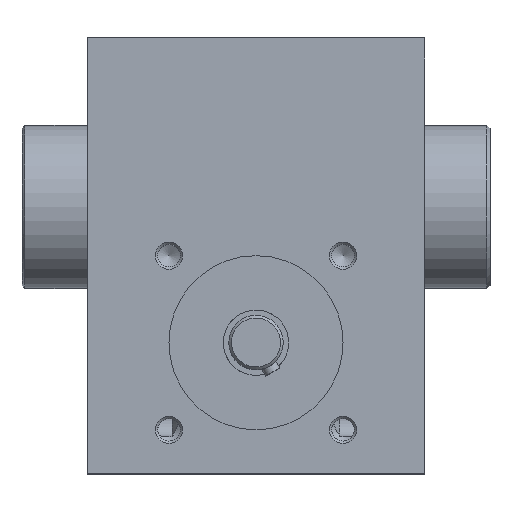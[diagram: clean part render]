
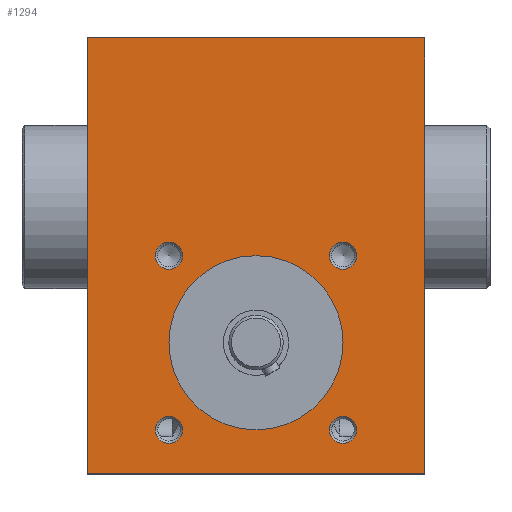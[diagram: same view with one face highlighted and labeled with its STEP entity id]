
A CAD part, top view. The second image highlights one B-rep face of the part: STEP entity #1294.
In plain terms, the highlighted planar face has unit normal (0, 0, 1).
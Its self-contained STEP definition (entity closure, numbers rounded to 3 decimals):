
#159=FACE_BOUND('',#442,.T.);
#160=FACE_BOUND('',#443,.T.);
#161=FACE_BOUND('',#444,.T.);
#162=FACE_BOUND('',#445,.T.);
#163=FACE_BOUND('',#446,.T.);
#219=LINE('',#2023,#259);
#223=LINE('',#2041,#263);
#227=LINE('',#2103,#267);
#228=LINE('',#2104,#268);
#259=VECTOR('',#1605,80.);
#263=VECTOR('',#1621,62.);
#267=VECTOR('',#1689,80.);
#268=VECTOR('',#1690,62.);
#316=FACE_OUTER_BOUND('',#441,.T.);
#441=EDGE_LOOP('',(#995,#996,#997,#998));
#442=EDGE_LOOP('',(#999));
#443=EDGE_LOOP('',(#1000));
#444=EDGE_LOOP('',(#1001));
#445=EDGE_LOOP('',(#1002));
#446=EDGE_LOOP('',(#1003));
#591=CIRCLE('',#1409,16.);
#601=CIRCLE('',#1429,2.5);
#602=CIRCLE('',#1430,2.5);
#603=CIRCLE('',#1431,2.5);
#604=CIRCLE('',#1432,2.5);
#670=VERTEX_POINT('',#2020);
#671=VERTEX_POINT('',#2022);
#679=VERTEX_POINT('',#2039);
#689=VERTEX_POINT('',#2072);
#699=VERTEX_POINT('',#2102);
#700=VERTEX_POINT('',#2105);
#701=VERTEX_POINT('',#2107);
#702=VERTEX_POINT('',#2109);
#703=VERTEX_POINT('',#2111);
#793=EDGE_CURVE('',#671,#670,#219,.T.);
#802=EDGE_CURVE('',#670,#679,#223,.T.);
#814=EDGE_CURVE('',#689,#689,#591,.T.);
#824=EDGE_CURVE('',#679,#699,#227,.T.);
#825=EDGE_CURVE('',#699,#671,#228,.T.);
#826=EDGE_CURVE('',#700,#700,#601,.T.);
#827=EDGE_CURVE('',#701,#701,#602,.T.);
#828=EDGE_CURVE('',#702,#702,#603,.T.);
#829=EDGE_CURVE('',#703,#703,#604,.T.);
#995=ORIENTED_EDGE('',*,*,#793,.T.);
#996=ORIENTED_EDGE('',*,*,#802,.T.);
#997=ORIENTED_EDGE('',*,*,#824,.T.);
#998=ORIENTED_EDGE('',*,*,#825,.T.);
#999=ORIENTED_EDGE('',*,*,#826,.F.);
#1000=ORIENTED_EDGE('',*,*,#827,.F.);
#1001=ORIENTED_EDGE('',*,*,#828,.F.);
#1002=ORIENTED_EDGE('',*,*,#829,.F.);
#1003=ORIENTED_EDGE('',*,*,#814,.F.);
#1249=PLANE('',#1428);
#1294=ADVANCED_FACE('',(#316,#159,#160,#161,#162,#163),#1249,.T.);
#1409=AXIS2_PLACEMENT_3D('',#2073,#1649,#1650);
#1428=AXIS2_PLACEMENT_3D('',#2101,#1687,#1688);
#1429=AXIS2_PLACEMENT_3D('',#2106,#1691,#1692);
#1430=AXIS2_PLACEMENT_3D('',#2108,#1693,#1694);
#1431=AXIS2_PLACEMENT_3D('',#2110,#1695,#1696);
#1432=AXIS2_PLACEMENT_3D('',#2112,#1697,#1698);
#1605=DIRECTION('',(0.,-1.,0.));
#1621=DIRECTION('',(1.,0.,0.));
#1649=DIRECTION('center_axis',(0.,0.,1.));
#1650=DIRECTION('ref_axis',(1.,0.,0.));
#1687=DIRECTION('center_axis',(0.,0.,1.));
#1688=DIRECTION('ref_axis',(1.,0.,0.));
#1689=DIRECTION('',(0.,1.,0.));
#1690=DIRECTION('',(-1.,0.,0.));
#1691=DIRECTION('center_axis',(0.,0.,1.));
#1692=DIRECTION('ref_axis',(1.,0.,0.));
#1693=DIRECTION('center_axis',(0.,0.,1.));
#1694=DIRECTION('ref_axis',(1.,0.,0.));
#1695=DIRECTION('center_axis',(0.,0.,1.));
#1696=DIRECTION('ref_axis',(1.,0.,0.));
#1697=DIRECTION('center_axis',(0.,0.,1.));
#1698=DIRECTION('ref_axis',(1.,0.,0.));
#2020=CARTESIAN_POINT('',(0.,-49.,36.));
#2022=CARTESIAN_POINT('',(0.,31.,36.));
#2023=CARTESIAN_POINT('',(0.,31.,36.));
#2039=CARTESIAN_POINT('',(62.,-49.,36.));
#2041=CARTESIAN_POINT('',(0.,-49.,36.));
#2072=CARTESIAN_POINT('',(47.,-25.,36.));
#2073=CARTESIAN_POINT('Origin',(31.,-25.,36.));
#2101=CARTESIAN_POINT('Origin',(0.,-49.,36.));
#2102=CARTESIAN_POINT('',(62.,31.,36.));
#2103=CARTESIAN_POINT('',(62.,-49.,36.));
#2104=CARTESIAN_POINT('',(62.,31.,36.));
#2105=CARTESIAN_POINT('',(17.5,-9.,36.));
#2106=CARTESIAN_POINT('Origin',(15.,-9.,36.));
#2107=CARTESIAN_POINT('',(49.5,-9.,36.));
#2108=CARTESIAN_POINT('Origin',(47.,-9.,36.));
#2109=CARTESIAN_POINT('',(49.5,-41.,36.));
#2110=CARTESIAN_POINT('Origin',(47.,-41.,36.));
#2111=CARTESIAN_POINT('',(17.5,-41.,36.));
#2112=CARTESIAN_POINT('Origin',(15.,-41.,36.));
